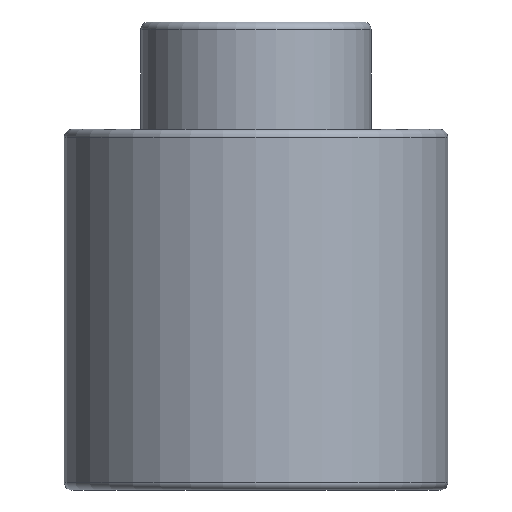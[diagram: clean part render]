
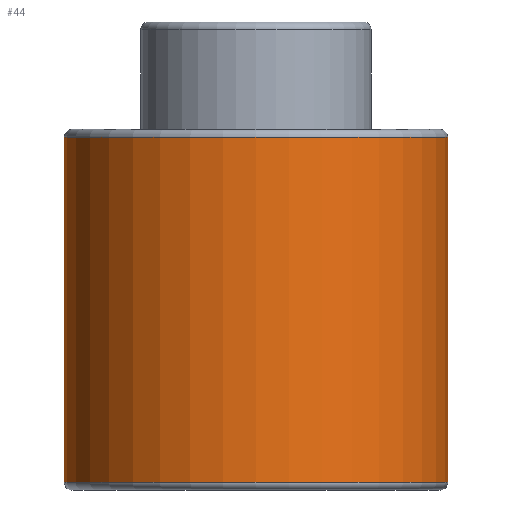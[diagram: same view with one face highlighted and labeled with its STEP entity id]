
A CAD part, front view. The second image highlights one B-rep face of the part: STEP entity #44.
In plain terms, the highlighted cylindrical face has radius 25 mm (diameter 50 mm), a full revolution.
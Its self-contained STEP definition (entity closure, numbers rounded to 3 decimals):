
#44=ADVANCED_FACE('',(#60,#61),#56,.T.);
#56=CYLINDRICAL_SURFACE('',#166,25.);
#60=FACE_BOUND('',#84,.T.);
#61=FACE_BOUND('',#85,.T.);
#84=EDGE_LOOP('',(#106));
#85=EDGE_LOOP('',(#107));
#106=ORIENTED_EDGE('',*,*,#141,.F.);
#107=ORIENTED_EDGE('',*,*,#142,.T.);
#128=VERTEX_POINT('',#237);
#129=VERTEX_POINT('',#239);
#141=EDGE_CURVE('',#128,#128,#152,.T.);
#142=EDGE_CURVE('',#129,#129,#153,.T.);
#152=CIRCLE('',#164,25.);
#153=CIRCLE('',#165,25.);
#164=AXIS2_PLACEMENT_3D('',#236,#189,#190);
#165=AXIS2_PLACEMENT_3D('',#238,#191,#192);
#166=AXIS2_PLACEMENT_3D('',#240,#193,#194);
#189=DIRECTION('',(0.,0.,-1.));
#190=DIRECTION('',(-1.,0.,0.));
#191=DIRECTION('',(0.,0.,-1.));
#192=DIRECTION('',(-1.,0.,0.));
#193=DIRECTION('',(0.,0.,-1.));
#194=DIRECTION('',(-1.,0.,0.));
#236=CARTESIAN_POINT('',(0.,0.,1.));
#237=CARTESIAN_POINT('',(-25.,0.,1.));
#238=CARTESIAN_POINT('',(0.,0.,46.));
#239=CARTESIAN_POINT('',(-25.,0.,46.));
#240=CARTESIAN_POINT('',(0.,0.,0.));
